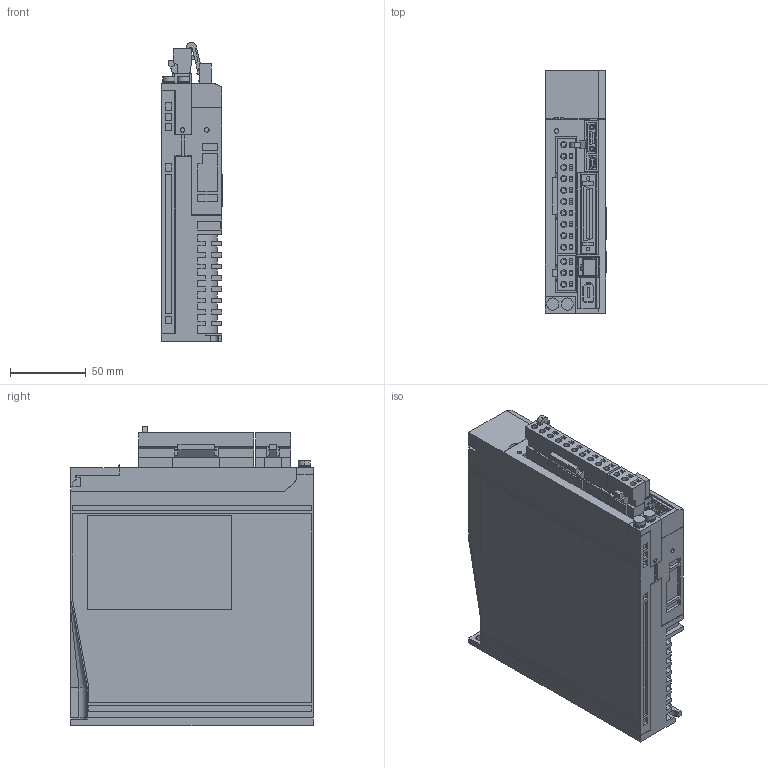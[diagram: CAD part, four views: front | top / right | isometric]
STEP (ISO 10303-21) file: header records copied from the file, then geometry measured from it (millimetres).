
FILE_DESCRIPTION (( 'STEP AP203' ), '1' );
FILE_NAME ('sgdv_2r1f0_a.STEP', '2008-06-17T08:23:10', ( 'T' ), ( 'T' ), 'SwSTEP 2.0', 'SolidWorks 2006052', '' );
FILE_SCHEMA (( 'CONFIG_CONTROL_DESIGN' ));
Length unit declared in the file: millimetre
Products named in the file (9): sgdv_2r1f0_a_connector; sgdv_2r1f0_a_connector_3; sgdv_2r1f0_a_cover2; sgdv_2r1f0_a_base; sgdv_2r1f0_a; sgdv_2r1f0_a_connector_2; sgdv_2r1f0_a_pin; sgdv_2r1f0_a_connector_1; sgdv_2r1f0_a_cover
Assembly tree (9 placements, depth 3):
  sgdv_2r1f0_a
    sgdv_2r1f0_a_cover2  x2
    sgdv_2r1f0_a_connector
      sgdv_2r1f0_a_pin
      sgdv_2r1f0_a_connector_2
    sgdv_2r1f0_a_base
    sgdv_2r1f0_a_connector_3
    sgdv_2r1f0_a_cover
    sgdv_2r1f0_a_connector_1
Bounding box: 40.5 x 160 x 197.16 mm (x, y, z)
Volume: 992613.4 mm3; surface area: 157213.6 mm2
Topology: 8 solids, 8 shells, 1868 faces, 4944 edges, 3266 vertices
Faces by surface type: plane 1625, cylinder 237, cone 4, bspline 1, sphere 1
Entity records: 57439 total; most frequent: CARTESIAN_POINT 10058, ORIENTED_EDGE 9780, DIRECTION 9137, EDGE_CURVE 4890, LINE 4347, VECTOR 4347, VERTEX_POINT 3230, AXIS2_PLACEMENT_3D 2395
